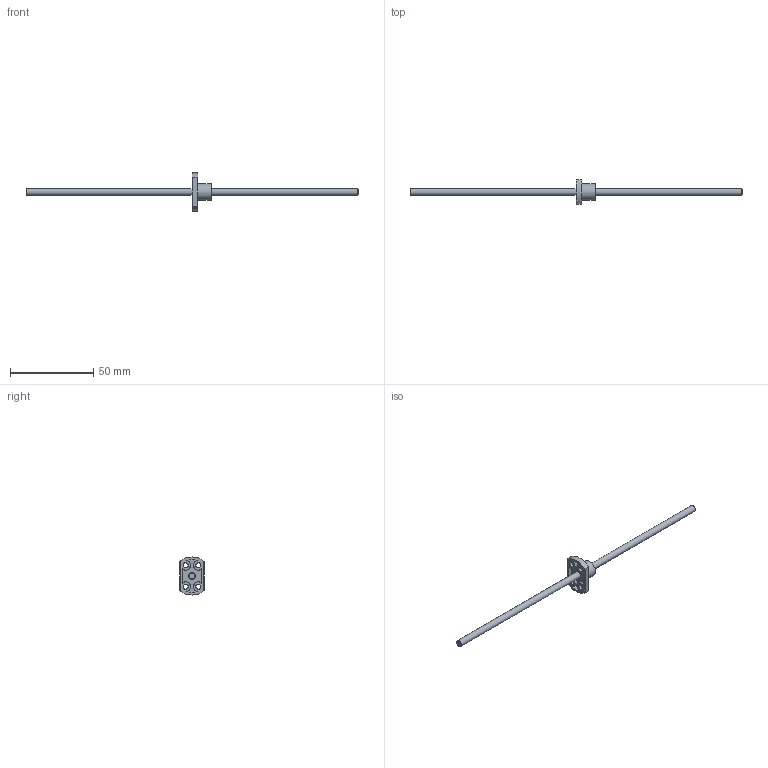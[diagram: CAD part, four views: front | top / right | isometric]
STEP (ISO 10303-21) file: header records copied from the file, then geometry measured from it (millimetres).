
FILE_DESCRIPTION((''),'2;1');
FILE_NAME('D:\製品 (図面)\カタログ用3D\ネジ関連\STEP形式\MSK\MSK04.stp','2010-06-02T14:37:09',('Tsuchiya'),(''),'Autodesk Inventor 10','Autodesk Inventor 10','');
FILE_SCHEMA(('AUTOMOTIVE_DESIGN { 1 0 10303 214 1 1 1 1 }'));
Length unit declared in the file: millimetre
Products named in the file (3): MSK04; MSK041; MSK042
Assembly tree (2 placements, depth 2):
  MSK04
    MSK041
    MSK042
Bounding box: 200 x 15 x 23 mm (x, y, z)
Volume: 3787.2 mm3; surface area: 3970 mm2
Topology: 2 solids, 2 shells, 31 faces, 78 edges, 53 vertices
Faces by surface type: cylinder 15, plane 14, cone 2
Full cylindrical faces by diameter (mm): 2.9 x4, 4 x2, 10 x1
Entity records: 962 total; most frequent: DIRECTION 176, CARTESIAN_POINT 148, ORIENTED_EDGE 128, AXIS2_PLACEMENT_3D 76, EDGE_CURVE 64, EDGE_LOOP 52, VERTEX_POINT 48, CIRCLE 32
